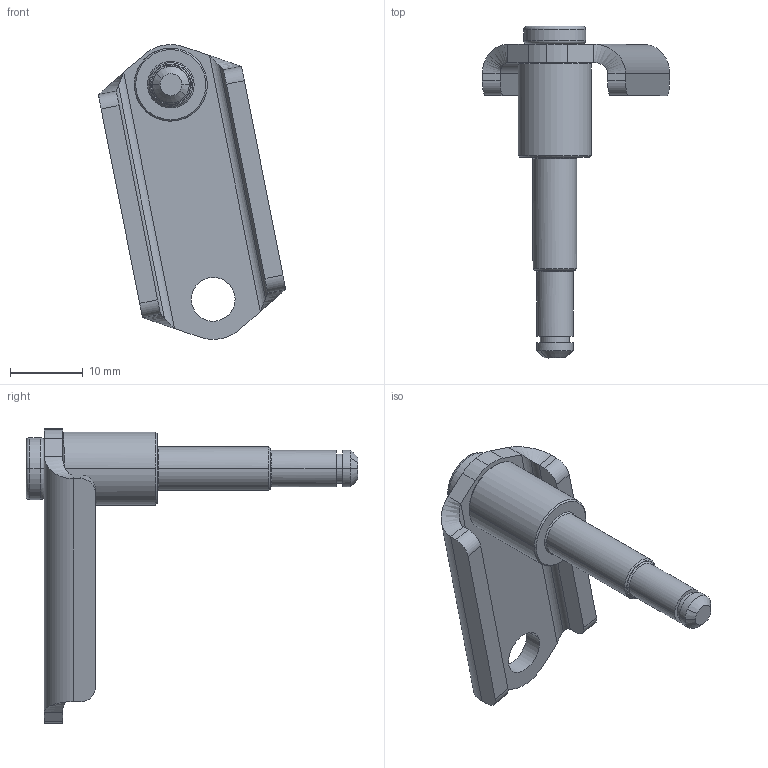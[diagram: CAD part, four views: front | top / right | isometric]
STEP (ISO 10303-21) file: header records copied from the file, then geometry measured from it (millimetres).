
FILE_DESCRIPTION(('CATIA V5 STEP Exchange'),'2;1');
FILE_NAME('C:\Users\nobody\Desktop\SHT0013238_C.stp','2024-04-22T03:38:41+00:00',('none'),('none'),'CATIA Version 5 Release 20 GA (IN-10)','CATIA V5 STEP AP203 Edition 2','none');
FILE_SCHEMA(('AP203_CONFIGURATION_CONTROLLED_3D_DESIGN_OF_MECHANICAL_PARTS_AND_ASSEMBLIES_MIM_LF { 1 0 10303 403 2 1 2}'));
Length unit declared in the file: millimetre
Products named in the file (3): SHT0013238; SHT0013110; SHT0017243
Assembly tree (2 placements, depth 2):
  SHT0013238
    SHT0013110
    SHT0017243
Bounding box: 25.67 x 45.5 x 40.43 mm (x, y, z)
Volume: 4085.3 mm3; surface area: 3334.5 mm2
Topology: 2 solids, 2 shells, 92 faces, 212 edges, 130 vertices
Faces by surface type: cylinder 32, cone 28, plane 24, bspline 4, torus 4
Entity records: 3106 total; most frequent: CARTESIAN_POINT 1128, ORIENTED_EDGE 424, DIRECTION 318, EDGE_CURVE 212, AXIS2_PLACEMENT_3D 153, VERTEX_POINT 130, EDGE_LOOP 102, ADVANCED_FACE 92
